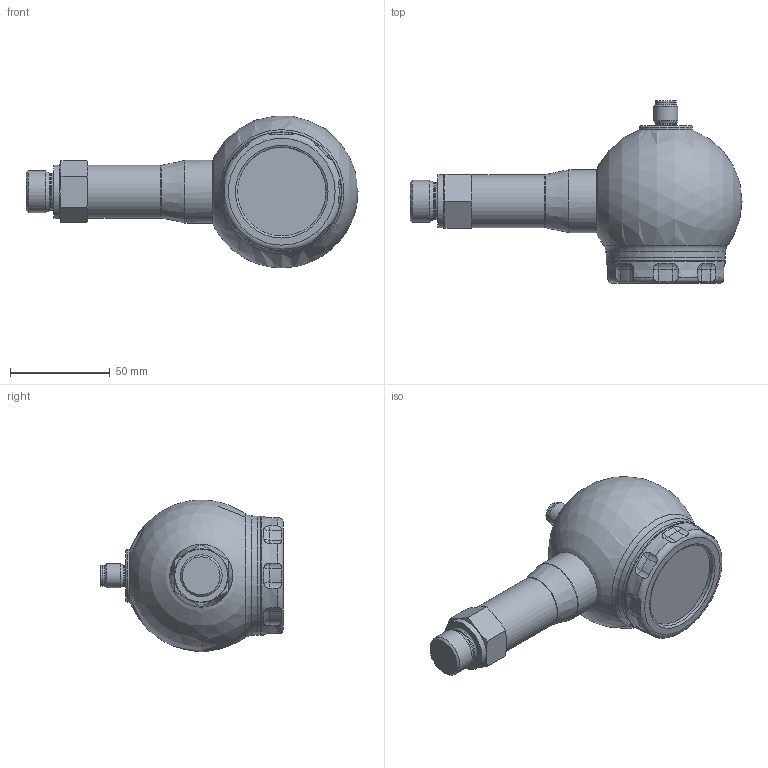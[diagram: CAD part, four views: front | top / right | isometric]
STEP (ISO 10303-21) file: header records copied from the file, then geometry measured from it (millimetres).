
FILE_DESCRIPTION(/* description */ (''),/* implementation_level */ '2;1');
FILE_NAME(/* name */ 'DS_400G-ICS 7Ax-xxxx-KH-x-x-x-N11-F00-x-xxx.stp',/* time_stamp */ '2024-10-07T13:10:31+02:00',/* author */ ('cz1166'),/* organization */ (''),/* preprocessor_version */ 'ST-DEVELOPER v19.2',/* originating_system */ 'Autodesk Inventor 2023',/* authorisation */ '');
FILE_SCHEMA (('AUTOMOTIVE_DESIGN { 1 0 10303 214 3 1 1 }'));
Length unit declared in the file: millimetre
Products named in the file (1): DS_400G-ICS 7Ax-xxxx-KH-x-x-x-N11-F00-x-xxx
Bounding box: 166.34 x 91.43 x 76.12 mm (x, y, z)
Volume: 308150.9 mm3; surface area: 31543.4 mm2
Topology: 2 solids, 2 shells, 118 faces, 280 edges, 173 vertices
Faces by surface type: cylinder 40, cone 24, torus 19, sphere 18, plane 17
Full cylindrical faces by diameter (mm): 10.4 x1, 10.5 x1, 10.6 x1, 12 x1, 18.4 x1, 20.955 x1, 22.5 x1, 25 x1, 26.5 x3, 29.8 x1, 31.5 x1, 44.4 x1, 59.5 x2
Entity records: 3998 total; most frequent: CARTESIAN_POINT 994, DIRECTION 616, ORIENTED_EDGE 556, EDGE_CURVE 278, AXIS2_PLACEMENT_3D 275, VERTEX_POINT 173, CIRCLE 156, EDGE_LOOP 128
